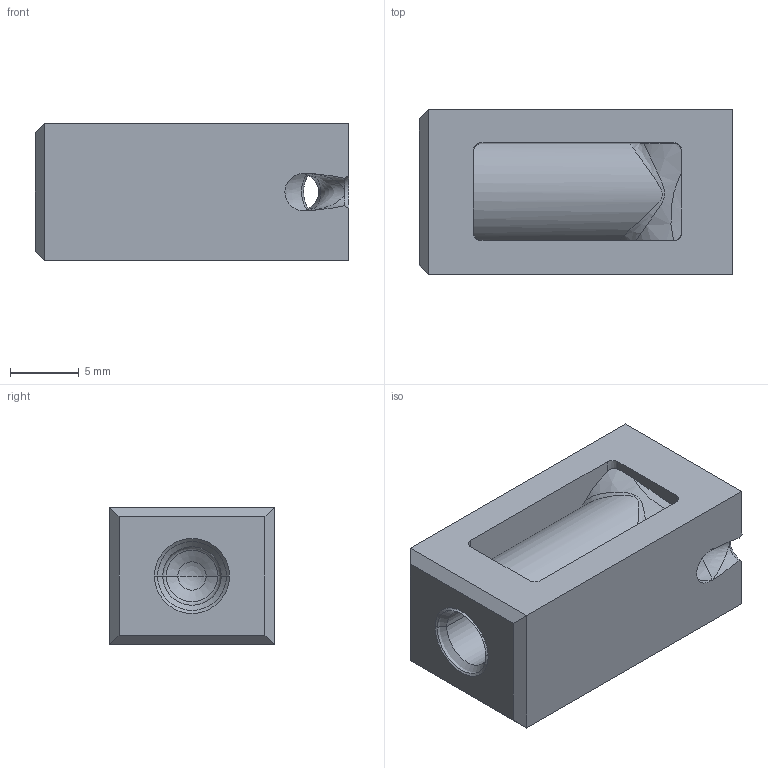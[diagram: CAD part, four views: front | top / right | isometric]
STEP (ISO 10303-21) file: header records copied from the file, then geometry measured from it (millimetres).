
FILE_DESCRIPTION((''),'2;1');
FILE_NAME('TGS12-20-S1','2004-03-24T',('tmeister'),(''),'PRO/ENGINEER BY PARAMETRIC TECHNOLOGY CORPORATION, 2002270','PRO/ENGINEER BY PARAMETRIC TECHNOLOGY CORPORATION, 2002270','');
FILE_SCHEMA(('CONFIG_CONTROL_DESIGN'));
Length unit declared in the file: millimetre
Products named in the file (1): TGS12-20-S1
Bounding box: 22.8 x 12 x 10 mm (x, y, z)
Volume: 2072.6 mm3; surface area: 1913.5 mm2
Topology: 1 solids, 2 shells, 65 faces, 233 edges, 170 vertices
Faces by surface type: plane 22, bspline 14, cone 13, cylinder 11, sphere 3, torus 2
Entity records: 4734 total; most frequent: CARTESIAN_POINT 3053, ORIENTED_EDGE 318, DIRECTION 275, EDGE_CURVE 161, VERTEX_POINT 101, B_SPLINE_CURVE_WITH_KNOTS 99, AXIS2_PLACEMENT_3D 93, VECTOR 89
